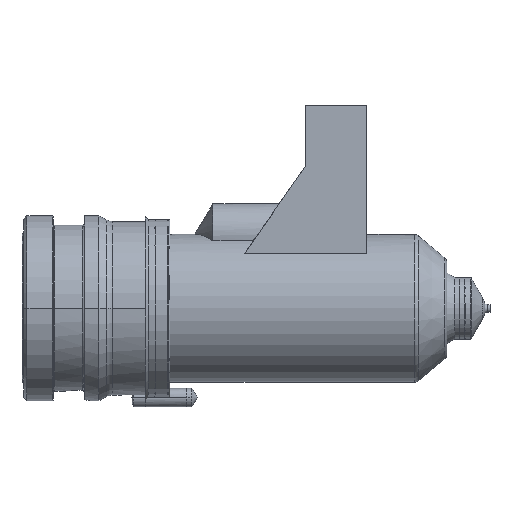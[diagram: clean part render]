
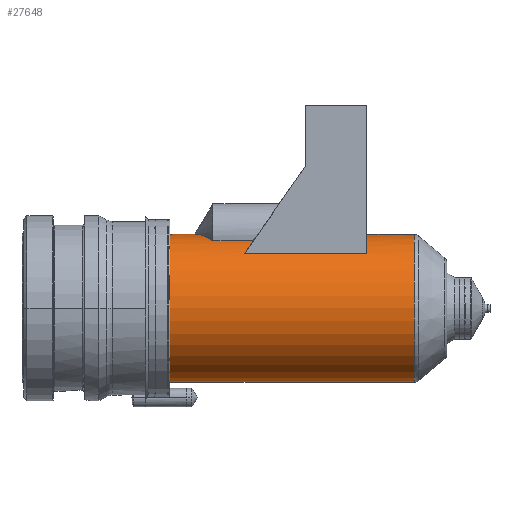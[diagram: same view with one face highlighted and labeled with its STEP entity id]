
A CAD part, left-side view. The second image highlights one B-rep face of the part: STEP entity #27648.
In plain terms, the highlighted cylindrical face has radius 12 mm (diameter 24 mm), a partial arc.
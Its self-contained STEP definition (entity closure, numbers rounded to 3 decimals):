
#26747=DIRECTION('',(0.,-1.,0.));
#26748=VECTOR('',#26747,19.842);
#26749=CARTESIAN_POINT('',(-8.,-36.158,8.944));
#26750=LINE('',#26749,#26748);
#26754=CARTESIAN_POINT('',(-4.89,-37.568,
10.958));
#26755=CARTESIAN_POINT('',(-5.478,-37.385,
10.696));
#26756=CARTESIAN_POINT('',(-6.58,-36.962,
10.092));
#26757=CARTESIAN_POINT('',(-7.548,-36.441,
9.349));
#26758=CARTESIAN_POINT('',(-8.,-36.158,8.944));
#26772=CARTESIAN_POINT('',(0.,-24.,0.));
#26773=DIRECTION('',(0.,1.,0.));
#26774=DIRECTION('',(0.,0.,-1.));
#26775=AXIS2_PLACEMENT_3D('',#26772,#26773,#26774);
#26795=CARTESIAN_POINT('',(0.,-56.,0.));
#26796=DIRECTION('',(0.,-1.,0.));
#26797=DIRECTION('',(0.,0.,1.));
#26798=AXIS2_PLACEMENT_3D('',#26795,#26796,#26797);
#26852=DIRECTION('',(0.,1.,0.));
#26853=VECTOR('',#26852,4.);
#26854=CARTESIAN_POINT('',(0.,-28.,12.));
#26855=LINE('',#26854,#26853);
#26867=DIRECTION('',(0.,1.,0.));
#26868=VECTOR('',#26867,39.736);
#26869=CARTESIAN_POINT('',(0.,-63.736,-12.));
#26870=LINE('',#26869,#26868);
#26874=DIRECTION('',(0.,1.,0.));
#26875=VECTOR('',#26874,7.736);
#26876=CARTESIAN_POINT('',(0.,-63.736,12.));
#26877=LINE('',#26876,#26875);
#26888=CARTESIAN_POINT('',(-4.89,-37.568,
10.958));
#26917=DIRECTION('',(0.,-1.,0.));
#26918=VECTOR('',#26917,6.564);
#26919=CARTESIAN_POINT('',(-4.89,-31.004,
10.958));
#26920=LINE('',#26919,#26918);
#26933=CARTESIAN_POINT('',(0.,-28.,12.));
#26946=CARTESIAN_POINT('',(0.,-28.,12.));
#26947=CARTESIAN_POINT('',(-0.24,-28.144,12.));
#26948=CARTESIAN_POINT('',(-0.72,-28.433,
11.986));
#26949=CARTESIAN_POINT('',(-1.438,-28.865,
11.921));
#26950=CARTESIAN_POINT('',(-2.151,-29.297,
11.813));
#26951=CARTESIAN_POINT('',(-2.855,-29.727,
11.663));
#26952=CARTESIAN_POINT('',(-3.549,-30.155,
11.471));
#26953=CARTESIAN_POINT('',(-4.229,-30.582,
11.238));
#26954=CARTESIAN_POINT('',(-4.672,-30.864,
11.056));
#26955=CARTESIAN_POINT('',(-4.89,-31.004,
10.958));
#27166=CARTESIAN_POINT('',(0.,-63.736,0.));
#27167=DIRECTION('',(0.,-1.,0.));
#27168=DIRECTION('',(0.,0.,1.));
#27169=AXIS2_PLACEMENT_3D('',#27166,#27167,#27168);
#27508=CARTESIAN_POINT('',(-8.,-36.158,8.944));
#27509=VERTEX_POINT('',#27508);
#27510=CARTESIAN_POINT('',(-8.,-56.,8.944));
#27511=VERTEX_POINT('',#27510);
#27516=VERTEX_POINT('',#26888);
#27518=CARTESIAN_POINT('',(-4.89,-31.004,
10.958));
#27520=VERTEX_POINT('',#27518);
#27522=CARTESIAN_POINT('',(0.,-63.736,-12.));
#27523=CARTESIAN_POINT('',(0.,-24.,-12.));
#27524=VERTEX_POINT('',#27522);
#27525=VERTEX_POINT('',#27523);
#27526=CARTESIAN_POINT('',(0.,-24.,12.));
#27527=VERTEX_POINT('',#27526);
#27528=CARTESIAN_POINT('',(0.,-63.736,12.));
#27530=VERTEX_POINT('',#27528);
#27583=CARTESIAN_POINT('',(0.,-56.,12.));
#27584=VERTEX_POINT('',#27583);
#27585=VERTEX_POINT('',#26933);
#27623=CARTESIAN_POINT('',(0.,-17.2,0.));
#27624=DIRECTION('',(0.,-1.,0.));
#27625=DIRECTION('',(0.,0.,1.));
#27626=AXIS2_PLACEMENT_3D('',#27623,#27624,#27625);
#27627=CYLINDRICAL_SURFACE('',#27626,12.);
#27628=ORIENTED_EDGE('',*,*,#27599,.T.);
#27630=ORIENTED_EDGE('',*,*,#27629,.F.);
#27632=ORIENTED_EDGE('',*,*,#27631,.F.);
#27634=ORIENTED_EDGE('',*,*,#27633,.T.);
#27636=ORIENTED_EDGE('',*,*,#27635,.T.);
#27638=ORIENTED_EDGE('',*,*,#27637,.T.);
#27640=ORIENTED_EDGE('',*,*,#27639,.F.);
#27642=ORIENTED_EDGE('',*,*,#27641,.T.);
#27644=ORIENTED_EDGE('',*,*,#27643,.T.);
#27645=ORIENTED_EDGE('',*,*,#27610,.T.);
#27646=EDGE_LOOP('',(#27628,#27630,#27632,#27634,#27636,#27638,#27640,#27642,
#27644,#27645));
#27647=FACE_OUTER_BOUND('',#27646,.F.);
#27648=ADVANCED_FACE('',(#27647),#27627,.T.);
#26759=B_SPLINE_CURVE_WITH_KNOTS('',3,(#26754,#26755,#26756,#26757,#26758),
.UNSPECIFIED.,.F.,.F.,(4,1,4),(0.,0.5,1.),.UNSPECIFIED.);
#26776=CIRCLE('',#26775,12.);
#26799=CIRCLE('',#26798,12.);
#26956=B_SPLINE_CURVE_WITH_KNOTS('',3,(#26946,#26947,#26948,#26949,#26950,
#26951,#26952,#26953,#26954,#26955),.UNSPECIFIED.,.F.,.F.,(4,1,1,1,1,1,1,4),(
0.,0.143,0.286,0.429,0.571,
0.714,0.857,1.),.UNSPECIFIED.);
#27170=CIRCLE('',#27169,12.);
#27599=EDGE_CURVE('',#27509,#27511,#26750,.T.);
#27610=EDGE_CURVE('',#27516,#27509,#26759,.T.);
#27629=EDGE_CURVE('',#27584,#27511,#26799,.T.);
#27631=EDGE_CURVE('',#27530,#27584,#26877,.T.);
#27633=EDGE_CURVE('',#27530,#27524,#27170,.T.);
#27635=EDGE_CURVE('',#27524,#27525,#26870,.T.);
#27637=EDGE_CURVE('',#27525,#27527,#26776,.T.);
#27639=EDGE_CURVE('',#27585,#27527,#26855,.T.);
#27641=EDGE_CURVE('',#27585,#27520,#26956,.T.);
#27643=EDGE_CURVE('',#27520,#27516,#26920,.T.);
